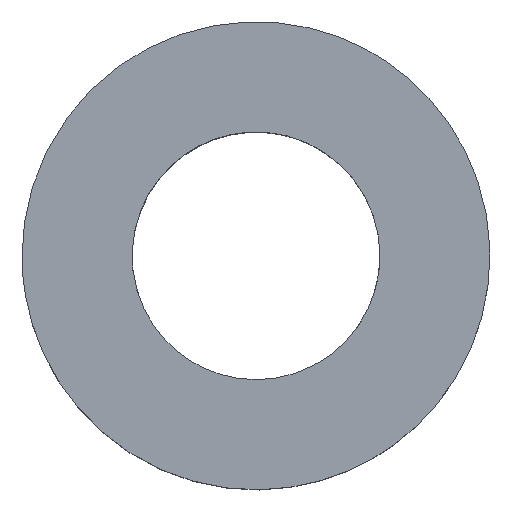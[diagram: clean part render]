
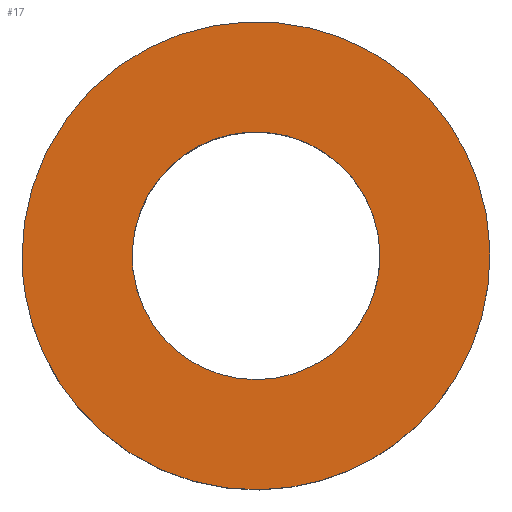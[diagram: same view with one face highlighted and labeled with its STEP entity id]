
A CAD part, top view. The second image highlights one B-rep face of the part: STEP entity #17.
In plain terms, the highlighted free-form (B-spline) face has degree [1, 1] with [2, 2] control points.
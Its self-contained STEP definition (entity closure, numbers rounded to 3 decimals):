
#17 = ADVANCED_FACE('',(#18,#32),#46,.T.);
#18 = FACE_BOUND('',#19,.T.);
#19 = EDGE_LOOP('',(#20));
#20 = ORIENTED_EDGE('',*,*,#21,.F.);
#21 = EDGE_CURVE('',#22,#22,#24,.T.);
#22 = VERTEX_POINT('',#23);
#23 = CARTESIAN_POINT('',(1.35,0.,1.5));
#24 = ( BOUNDED_CURVE() B_SPLINE_CURVE(2,(#25,#26,#27,#28,#29,#30,#31),
.UNSPECIFIED.,.T.,.F.) B_SPLINE_CURVE_WITH_KNOTS((1,2,2,2,2,1),(
    -2.094,0.,2.094,4.189,6.283,
8.378),.UNSPECIFIED.) CURVE() GEOMETRIC_REPRESENTATION_ITEM() 
RATIONAL_B_SPLINE_CURVE((1.,0.5,1.,0.5,1.,0.5,1.)) REPRESENTATION_ITEM(
  '') );
#25 = CARTESIAN_POINT('',(1.35,0.,1.5));
#26 = CARTESIAN_POINT('',(1.35,2.338,1.5));
#27 = CARTESIAN_POINT('',(-0.675,1.169,1.5));
#28 = CARTESIAN_POINT('',(-2.7,0.,1.5));
#29 = CARTESIAN_POINT('',(-0.675,-1.169,1.5));
#30 = CARTESIAN_POINT('',(1.35,-2.338,1.5));
#31 = CARTESIAN_POINT('',(1.35,0.,1.5));
#32 = FACE_BOUND('',#33,.T.);
#33 = EDGE_LOOP('',(#34));
#34 = ORIENTED_EDGE('',*,*,#35,.F.);
#35 = EDGE_CURVE('',#36,#36,#38,.T.);
#36 = VERTEX_POINT('',#37);
#37 = CARTESIAN_POINT('',(-2.55,0.,1.5));
#38 = ( BOUNDED_CURVE() B_SPLINE_CURVE(2,(#39,#40,#41,#42,#43,#44,#45),
.UNSPECIFIED.,.T.,.F.) B_SPLINE_CURVE_WITH_KNOTS((1,2,2,2,2,1),(
    -2.094,0.,2.094,4.189,6.283,
8.378),.UNSPECIFIED.) CURVE() GEOMETRIC_REPRESENTATION_ITEM() 
RATIONAL_B_SPLINE_CURVE((1.,0.5,1.,0.5,1.,0.5,1.)) REPRESENTATION_ITEM(
  '') );
#39 = CARTESIAN_POINT('',(-2.55,0.,1.5));
#40 = CARTESIAN_POINT('',(-2.55,4.417,1.5));
#41 = CARTESIAN_POINT('',(1.275,2.208,1.5));
#42 = CARTESIAN_POINT('',(5.1,0.,1.5));
#43 = CARTESIAN_POINT('',(1.275,-2.208,1.5));
#44 = CARTESIAN_POINT('',(-2.55,-4.417,1.5));
#45 = CARTESIAN_POINT('',(-2.55,0.,1.5));
#46 = B_SPLINE_SURFACE_WITH_KNOTS('',1,1,(
    (#47,#48)
    ,(#49,#50
    )),.UNSPECIFIED.,.F.,.F.,.F.,(2,2),(2,2),(0.,5.1),(
    -2.55,2.55),.PIECEWISE_BEZIER_KNOTS.);
#47 = CARTESIAN_POINT('',(-2.55,-2.55,1.5));
#48 = CARTESIAN_POINT('',(-2.55,2.55,1.5));
#49 = CARTESIAN_POINT('',(2.55,-2.55,1.5));
#50 = CARTESIAN_POINT('',(2.55,2.55,1.5));
